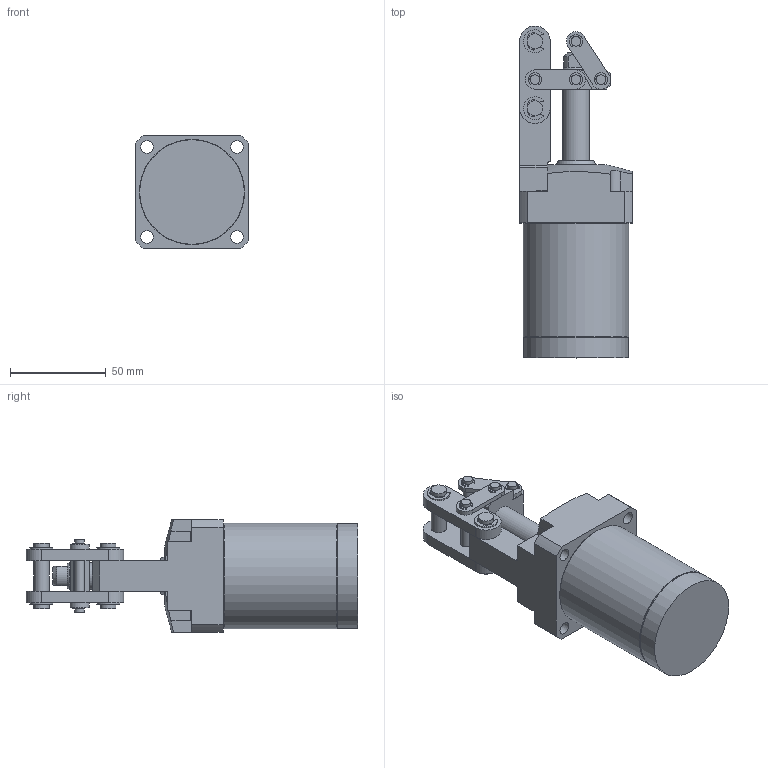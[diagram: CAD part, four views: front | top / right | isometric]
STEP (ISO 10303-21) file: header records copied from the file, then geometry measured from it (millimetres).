
FILE_DESCRIPTION( ( '' ), '1' );
FILE_NAME( 'W:/Catalogue/JLF5H/JLF5H34-38K/JLF5H34-38K.stp', '2008-05-26T02:39:32', ( '機械事業部産業機器グループ' ), ( '豊和工業株式会社' ), 'XStep 1.0', ' ', ' ' );
FILE_SCHEMA( ( 'CONFIG_CONTROL_DESIGN' ) );
Length unit declared in the file: millimetre
Products named in the file (6): Assem1; 1; 2; 3; 4; 5
Bounding box: 59 x 173.5 x 59 mm (x, y, z)
Volume: 519776 mm3; surface area: 120826.6 mm2
Topology: 10 solids, 14 shells, 860 faces, 2230 edges, 1482 vertices
Faces by surface type: plane 454, cylinder 378, cone 26, torus 2
Full cylindrical faces by diameter (mm): 2 x2, 3 x16, 4.2 x2, 5 x32, 6 x8, 6.6 x8, 8 x14, 8.3 x4, 14 x6, 16 x2, 20 x2, 24 x4, 34 x4, 54 x4, 54.7 x2, 55 x2
Entity records: 13071 total; most frequent: DIRECTION 2311, CARTESIAN_POINT 2301, ORIENTED_EDGE 2022, EDGE_CURVE 1011, AXIS2_PLACEMENT_3D 885, VERTEX_POINT 709, EDGE_LOOP 567, LINE 541
